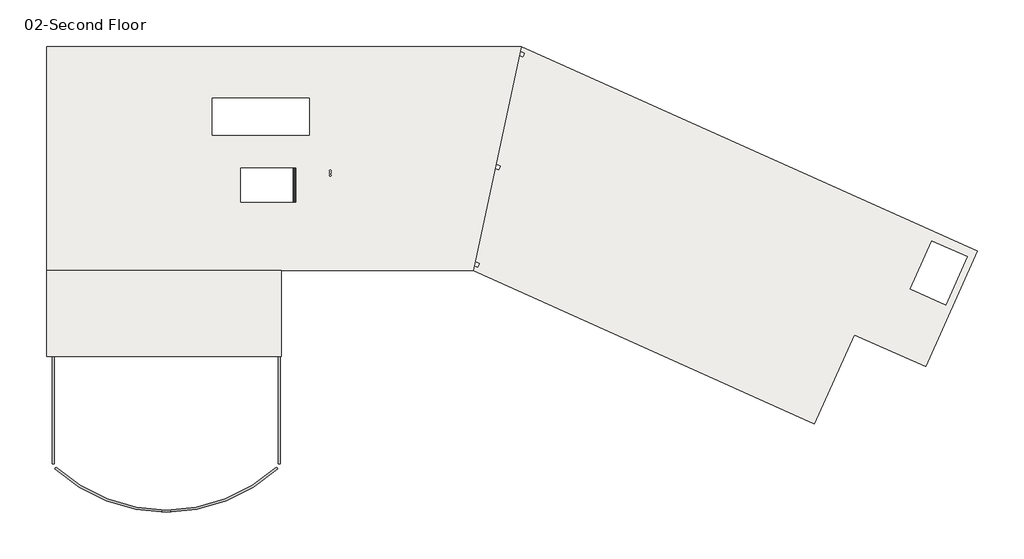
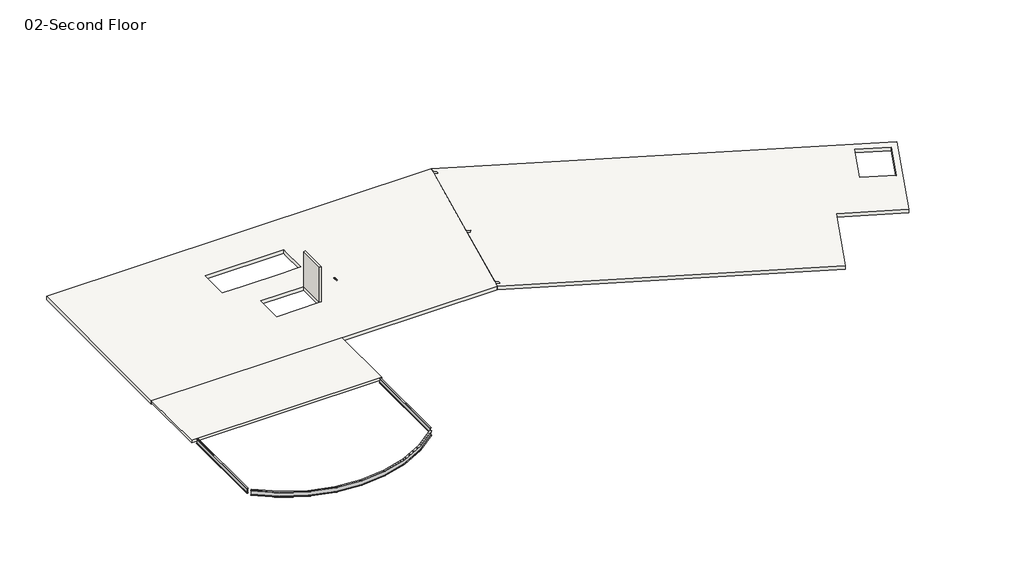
# One storey: 3 beams, 3 slabs, 1 wall.
"""IFC4 building model written with IfcOpenShell, lengths in millimetres."""

import ifcopenshell
import ifcopenshell.guid

model = None  # the IFC model being written
_history = None  # IfcOwnerHistory: only IFC2X3 demands one
_inside = {}  # id of a spatial element -> (the spatial element, [elements in it])
_under = {}  # id of a project, library or spatial element -> (it, [spatial elements below it])
_declared = {}  # id of a project -> (the project, [libraries it declares])
_typed = {}  # id of a type object -> (the type object, [elements of that type])
_made_of = {}  # id of a material, layer set ... -> (it, [elements and type objects made of it])


def new_model(schema):
    """Start an empty IFC model of exactly this schema.

    Asked for "IFC4X3", IfcOpenShell would pick the latest addendum, in which some entities
    have other attributes; the version numbers below select the first issue.
    IFC2X3 requires an IfcOwnerHistory on every rooted entity: one is made here for all.
    """
    global model, _history
    if schema == "IFC4X3":
        model = ifcopenshell.file(schema_version=(4, 3, 0, 0))
    else:
        model = ifcopenshell.file(schema=schema)
    _inside.clear()
    _under.clear()
    _declared.clear()
    _typed.clear()
    _made_of.clear()
    _history = None
    if model.schema == "IFC2X3":
        org = make("IfcOrganization", Name="unknown")
        user = make(
            "IfcPersonAndOrganization",
            ThePerson=make("IfcPerson", FamilyName="unknown"),
            TheOrganization=org,
        )
        app = make(
            "IfcApplication",
            ApplicationDeveloper=org,
            Version="unknown",
            ApplicationFullName="unknown",
            ApplicationIdentifier="unknown",
        )
        _history = make(
            "IfcOwnerHistory",
            OwningUser=user,
            OwningApplication=app,
            ChangeAction="ADDED",
            CreationDate=0,
        )
    return model


def make(cls, **values):
    """One entity of the class cls with the attributes given. An attribute that is None is left unset."""
    return model.create_entity(
        cls, **{name: value for name, value in values.items() if value is not None}
    )


def rooted(cls, **values):
    """An entity with a GlobalId (a new one), such as an element, a storey or a relation."""
    return make(cls, GlobalId=ifcopenshell.guid.new(), OwnerHistory=_history, **values)


def si_unit(unit_type, name, prefix=None):
    """IfcSIUnit, for example si_unit("LENGTHUNIT", "METRE", prefix="MILLI")."""
    return make("IfcSIUnit", UnitType=unit_type, Prefix=prefix, Name=name)


def assignment(units):
    """IfcUnitAssignment: the units of a project."""
    return None if units is None else make("IfcUnitAssignment", Units=units)


def point(xyz):
    """IfcCartesianPoint."""
    return None if xyz is None else make("IfcCartesianPoint", Coordinates=xyz)


def direction(xyz):
    """IfcDirection."""
    return None if xyz is None else make("IfcDirection", DirectionRatios=xyz)


def frame(location, z_axis=None, x_axis=None):
    """IfcAxis2Placement3D, a coordinate frame: its origin and axes. An axis left out is left unset."""
    return make(
        "IfcAxis2Placement3D",
        Location=point(location),
        Axis=direction(z_axis),
        RefDirection=direction(x_axis),
    )


def frame_2d(location, x_axis=None):
    """IfcAxis2Placement2D, a coordinate frame in the plane: its origin and x axis."""
    return make(
        "IfcAxis2Placement2D", Location=point(location), RefDirection=direction(x_axis)
    )


def origin():
    """The frame at (0, 0, 0) with its axes left unset."""
    return frame((0.0, 0.0, 0.0))


def place(relative_to, where):
    """IfcLocalPlacement: puts the frame where relative to a parent placement (None: the world)."""
    return make(
        "IfcLocalPlacement", PlacementRelTo=relative_to, RelativePlacement=where
    )


def context(
    kind, dimensions, precision=None, world=None, true_north=None, identifier=None
):
    """IfcGeometricRepresentationContext, for example the 3D "Model" context."""
    return make(
        "IfcGeometricRepresentationContext",
        ContextIdentifier=identifier,
        ContextType=kind,
        CoordinateSpaceDimension=dimensions,
        Precision=precision,
        WorldCoordinateSystem=world,
        TrueNorth=true_north,
    )


def project(units=None, contexts=None):
    """IfcProject with its units and contexts."""
    return rooted(
        "IfcProject",
        Name="project",
        RepresentationContexts=contexts,
        UnitsInContext=assignment(units),
    )


def spatial(cls, under=None, at=None, **own):
    """A site, building, storey or space (cls), placed at a placement, below another one or the project."""
    s = rooted(cls, ObjectPlacement=at, **own)
    if under is not None:
        _under.setdefault(under.id(), (under, []))[1].append(s)
    return s


def polyline(points):
    """IfcPolyline through the points."""
    return make("IfcPolyline", Points=[point(p) for p in points])


def circle_curve(where, radius):
    """IfcCircle in the frame where."""
    return make("IfcCircle", Position=where, Radius=radius)


def ellipse_curve(where, semi_axis1, semi_axis2):
    """IfcEllipse in the frame where."""
    return make(
        "IfcEllipse", Position=where, SemiAxis1=semi_axis1, SemiAxis2=semi_axis2
    )


def trimmed(basis, trim1, trim2, sense, master):
    """IfcTrimmedCurve: the piece of a basis curve between two trims."""
    return make(
        "IfcTrimmedCurve",
        BasisCurve=basis,
        Trim1=trim1,
        Trim2=trim2,
        SenseAgreement=sense,
        MasterRepresentation=master,
    )


def segment(curve, same_sense, transition):
    """IfcCompositeCurveSegment."""
    return make(
        "IfcCompositeCurveSegment",
        Transition=transition,
        SameSense=same_sense,
        ParentCurve=curve,
    )


def composite_curve(segments, self_intersect=None):
    """IfcCompositeCurve: segments joined end to end."""
    return make("IfcCompositeCurve", Segments=segments, SelfIntersect=self_intersect)


def outline(outer, holes=None, kind="AREA"):
    """IfcArbitraryClosedProfileDef: a profile drawn as a closed curve; with holes, ...WithVoids."""
    if holes is None:
        return make("IfcArbitraryClosedProfileDef", ProfileType=kind, OuterCurve=outer)
    return make(
        "IfcArbitraryProfileDefWithVoids",
        ProfileType=kind,
        OuterCurve=outer,
        InnerCurves=holes,
    )


def extrude(swept, where, along, depth):
    """IfcExtrudedAreaSolid: the profile swept, set in the frame where, extruded along a direction by depth."""
    return make(
        "IfcExtrudedAreaSolid",
        SweptArea=swept,
        Position=where,
        ExtrudedDirection=direction(along),
        Depth=depth,
    )


def faces_of(points, faces, orient=None, outer=None):
    """IfcFace entities. A face is a list of loops; a loop is a list of indices into points, from 0.

    orient and outer hold one flag for each loop. By default every Orientation is true, the
    first loop of a face is its IfcFaceOuterBound and the others are IfcFaceBound.
    """
    made = []
    for i, loops in enumerate(faces):
        bounds = []
        for j, loop in enumerate(loops):
            is_outer = j == 0 if outer is None else outer[i][j]
            bounds.append(
                make(
                    "IfcFaceOuterBound" if is_outer else "IfcFaceBound",
                    Bound=make("IfcPolyLoop", Polygon=[points[k] for k in loop]),
                    Orientation=True if orient is None else orient[i][j],
                )
            )
        made.append(make("IfcFace", Bounds=bounds))
    return made


def faceted_brep(points, faces, orient=None, outer=None, voids=None):
    """IfcFacetedBrep: a solid bounded by flat faces; with voids (closed shells), ...WithVoids."""
    shared = [point(p) for p in points]
    hull = make("IfcClosedShell", CfsFaces=faces_of(shared, faces, orient, outer))
    if voids is None:
        return make("IfcFacetedBrep", Outer=hull)
    return make(
        "IfcFacetedBrepWithVoids",
        Outer=hull,
        Voids=[
            make(cls, CfsFaces=faces_of(shared, fs, o, b)) for cls, fs, o, b in voids
        ],
    )


def shape(context_of_items, identifier, shape_type, items):
    """IfcShapeRepresentation: the items that make up one representation, for example the "Body"."""
    return make(
        "IfcShapeRepresentation",
        ContextOfItems=context_of_items,
        RepresentationIdentifier=identifier,
        RepresentationType=shape_type,
        Items=items,
    )


def source(mapping_origin, context_of_items, identifier, shape_type, items):
    """IfcRepresentationMap: a shape defined once, which mapped items show again and again."""
    return make(
        "IfcRepresentationMap",
        MappingOrigin=mapping_origin,
        MappedRepresentation=shape(context_of_items, identifier, shape_type, items),
    )


def transform(
    local_origin,
    x_axis=None,
    y_axis=None,
    z_axis=None,
    scale=None,
    scale2=None,
    scale3=None,
    uniform=True,
):
    """IfcCartesianTransformationOperator3D, or its non-uniform kind. x_axis, y_axis, z_axis: its Axis1, 2, 3."""
    if uniform:
        return make(
            "IfcCartesianTransformationOperator3D",
            Axis1=direction(x_axis),
            Axis2=direction(y_axis),
            LocalOrigin=point(local_origin),
            Scale=scale,
            Axis3=direction(z_axis),
        )
    return make(
        "IfcCartesianTransformationOperator3DnonUniform",
        Axis1=direction(x_axis),
        Axis2=direction(y_axis),
        LocalOrigin=point(local_origin),
        Scale=scale,
        Axis3=direction(z_axis),
        Scale2=scale2,
        Scale3=scale3,
    )


def mapped(mapping_source, mapping_target):
    """IfcMappedItem: shows the shape of a source again, moved by a transform."""
    return make(
        "IfcMappedItem", MappingSource=mapping_source, MappingTarget=mapping_target
    )


def made_of(thing, what):
    """Note that an element or type object is made of a material, layer set ...; save() writes the relation."""
    if what is not None:
        _made_of.setdefault(what.id(), (what, []))[1].append(thing)
    return thing


def element(
    cls,
    number,
    at=None,
    inside=None,
    cuts=None,
    type_object=None,
    material=None,
    context=None,
    identifier="Body",
    shape_type=None,
    held_by="IfcProductDefinitionShape",
    body=None,
    shapes=None,
    **own,
):
    """One element of the class cls, such as IfcWall. Its Tag is "e" and its number.

    at: its placement. inside: the storey or other place that contains it. cuts: it is an
    opening in that element (IfcRelVoidsElement). A single representation is given by context,
    identifier, shape_type and body (its items); several are given by shapes. held_by: the class
    of the entity that holds the representations. save() writes the other relations.
    """
    e = rooted(cls, Tag="e%d" % number, ObjectPlacement=at, **own)
    if body is not None:
        shapes = [shape(context, identifier, shape_type, body)]
    if shapes is not None:
        e.Representation = make(held_by, Representations=shapes)
    if inside is not None:
        _inside.setdefault(inside.id(), (inside, []))[1].append(e)
    if cuts is not None:
        rooted(
            "IfcRelVoidsElement", RelatingBuildingElement=cuts, RelatedOpeningElement=e
        )
    if type_object is not None:
        _typed.setdefault(type_object.id(), (type_object, []))[1].append(e)
    return made_of(e, material)


def aggregate(whole, parts):
    """IfcRelAggregates: a whole, such as a stair, and the parts it consists of."""
    return rooted("IfcRelAggregates", RelatingObject=whole, RelatedObjects=parts)


def save(model, path):
    """Write the relations noted so far, then the file.

    IfcRelAggregates (storeys below a building ...), IfcRelContainedInSpatialStructure (elements
    in a storey), IfcRelDefinesByType, IfcRelAssociatesMaterial and IfcRelDeclares: one each for
    every whole, place, type object, material and project.
    """
    for whole, parts in _under.values():
        aggregate(whole, parts)
    for where, things in _inside.values():
        rooted(
            "IfcRelContainedInSpatialStructure",
            RelatedElements=things,
            RelatingStructure=where,
        )
    for kind, things in _typed.values():
        rooted("IfcRelDefinesByType", RelatedObjects=things, RelatingType=kind)
    for what, things in _made_of.values():
        rooted("IfcRelAssociatesMaterial", RelatedObjects=things, RelatingMaterial=what)
    for by, libraries in _declared.values():
        rooted("IfcRelDeclares", RelatingContext=by, RelatedDefinitions=libraries)
    model.write(path)


def plane_surface(at):
    """IfcPlane: the flat surface through the origin of the frame at, square to its z axis."""
    return make("IfcPlane", Position=at)


def cylinder_surface(at, radius):
    """IfcCylindricalSurface: all points at the distance radius from the z axis of the frame at."""
    return make("IfcCylindricalSurface", Position=at, Radius=radius)


def revolved_surface(curve, axis_point, axis_direction):
    """IfcSurfaceOfRevolution: the curve turned about the line through axis_point along axis_direction."""
    return make(
        "IfcSurfaceOfRevolution",
        SweptCurve=make("IfcArbitraryOpenProfileDef", ProfileType="CURVE", Curve=curve),
        AxisPosition=make("IfcAxis1Placement", Location=point(axis_point), Axis=direction(axis_direction)),
    )


def advanced_brep(points, edges, surfaces, faces):
    """IfcAdvancedBrep: a solid bounded by faces that lie on surfaces and meet in shared edges.

    An edge is (start, end): straight between two places in points (the first is 0);
    or (start, end, curve); or (start, end, curve, False) where it runs against its curve.
    A face is (place in surfaces, loops), or (place, loops, False) where it looks against
    its surface's normal. A loop lists edges by number (the first is 1), with a minus sign
    where the edge is run from its end to its start. The first loop is the outer one.
    """
    corners = [point(p) for p in points]
    vertices = [make("IfcVertexPoint", VertexGeometry=c) for c in corners]
    made = []
    for start, end, *more in edges:
        made.append(
            make(
                "IfcEdgeCurve",
                EdgeStart=vertices[start],
                EdgeEnd=vertices[end],
                EdgeGeometry=more[0] if more else make("IfcPolyline", Points=[corners[start], corners[end]]),
                SameSense=more[1] if len(more) > 1 else True,
            )
        )
    hull = []
    for where, loops, *sense in faces:
        bounds = []
        for j, loop in enumerate(loops):
            ring = [make("IfcOrientedEdge", EdgeElement=made[abs(k) - 1], Orientation=k > 0) for k in loop]
            bounds.append(
                make(
                    "IfcFaceOuterBound" if j == 0 else "IfcFaceBound",
                    Bound=make("IfcEdgeLoop", EdgeList=ring),
                    Orientation=True,
                )
            )
        hull.append(make("IfcAdvancedFace", Bounds=bounds, FaceSurface=surfaces[where], SameSense=sense[0] if sense else True))
    return make("IfcAdvancedBrep", Outer=make("IfcClosedShell", CfsFaces=hull))


def w_shapes_w16x26_e367a1e3(model_context):
    return source(origin(), model_context, "Body", "SweptSolid", [
        extrude(outline(composite_curve([segment(polyline([(69.85, -190.627), (69.85, -199.39), (-69.85, -199.39), (-69.85, -190.627), (-13.3858, -190.627)]), True, "CONTINUOUS"), segment(trimmed(circle_curve(frame_2d((-13.3858, -180.4162)), 10.2108), [point((-13.3858, -190.627))], [point((-3.175, -180.4162))], True, "CARTESIAN"), True, "CONTINUOUS"), segment(polyline([(-3.175, -180.4162), (-3.175, 180.4162)]), True, "CONTINUOUS"), segment(trimmed(circle_curve(frame_2d((-13.3858, 180.4162)), 10.2108), [point((-3.175, 180.4162))], [point((-13.3858, 190.627))], True, "CARTESIAN"), True, "CONTINUOUS"), segment(polyline([(-13.3858, 190.627), (-69.85, 190.627), (-69.85, 199.39), (69.85, 199.39), (69.85, 190.627), (13.3858, 190.627)]), True, "CONTINUOUS"), segment(trimmed(circle_curve(frame_2d((13.3858, 180.4162)), 10.2108), [point((13.3858, 190.627))], [point((3.175, 180.4162))], True, "CARTESIAN"), True, "CONTINUOUS"), segment(polyline([(3.175, 180.4162), (3.175, -180.4162)]), True, "CONTINUOUS"), segment(trimmed(circle_curve(frame_2d((13.3858, -180.4162)), 10.2108), [point((3.175, -180.4162))], [point((13.3858, -190.627))], True, "CARTESIAN"), True, "CONTINUOUS"), segment(polyline([(13.3858, -190.627), (69.85, -190.627)]), True, "CONTINUOUS")], self_intersect=False)), frame((-3584.829, 0.0, 0.0), z_axis=(1.0, 0.0, 0.0), x_axis=(0.0, 1.0, 0.0)), (0.0, 0.0, 1.0), 7166.229),
    ])


def w_shapes_w16x26_bd6dae71(model_context):
    return source(origin(), model_context, "Body", "SweptSolid", [
        extrude(outline(composite_curve([segment(polyline([(69.85, -190.627), (69.85, -199.39), (-69.85, -199.39), (-69.85, -190.627), (-13.3858, -190.627)]), True, "CONTINUOUS"), segment(trimmed(circle_curve(frame_2d((-13.3858, -180.4162)), 10.2108), [point((-13.3858, -190.627))], [point((-3.175, -180.4162))], True, "CARTESIAN"), True, "CONTINUOUS"), segment(polyline([(-3.175, -180.4162), (-3.175, 180.4162)]), True, "CONTINUOUS"), segment(trimmed(circle_curve(frame_2d((-13.3858, 180.4162)), 10.2108), [point((-3.175, 180.4162))], [point((-13.3858, 190.627))], True, "CARTESIAN"), True, "CONTINUOUS"), segment(polyline([(-13.3858, 190.627), (-69.85, 190.627), (-69.85, 199.39), (69.85, 199.39), (69.85, 190.627), (13.3858, 190.627)]), True, "CONTINUOUS"), segment(trimmed(circle_curve(frame_2d((13.3858, 180.4162)), 10.2108), [point((13.3858, 190.627))], [point((3.175, 180.4162))], True, "CARTESIAN"), True, "CONTINUOUS"), segment(polyline([(3.175, 180.4162), (3.175, -180.4162)]), True, "CONTINUOUS"), segment(trimmed(circle_curve(frame_2d((13.3858, -180.4162)), 10.2108), [point((3.175, -180.4162))], [point((13.3858, -190.627))], True, "CARTESIAN"), True, "CONTINUOUS"), segment(polyline([(13.3858, -190.627), (69.85, -190.627)]), True, "CONTINUOUS")], self_intersect=False)), frame((-3581.4, 0.0, 0.0), z_axis=(1.0, 0.0, 0.0), x_axis=(0.0, 1.0, 0.0)), (0.0, 0.0, 1.0), 7166.229),
    ])


def w_shapes_w16x26_8057c508(model_context):
    return source(origin(), model_context, "Body", "AdvancedBrep", [
        advanced_brep(
        [(10900.3353789, -10168.7475051, -190.627), (10843.9817352, -10172.2791801, -190.627), (10833.7909279, -10172.9178365, -180.4162), (10833.7909279, -10172.9178365, 180.4162), (10843.9817352, -10172.2791801, 190.627), (10900.3353789, -10168.7475051, 190.627), (10900.3353789, -10168.7475051, 199.39), (10760.9089101, -10177.4853424, 199.39), (10760.9089101, -10177.4853424, 190.627), (10817.2625537, -10173.9536674, 190.627), (10827.4533611, -10173.315011, 180.4162), (10827.4533611, -10173.315011, -180.4162), (10817.2625537, -10173.9536674, -190.627), (10760.9089101, -10177.4853424, -190.627), (10760.9089101, -10177.4853424, -199.39), (10900.3353789, -10168.7475051, -199.39), (193.4708242, 68.1362637, -190.627), (193.4708242, 68.1362637, -199.39), (190.996134, -71.5418159, -199.39), (190.996134, -71.5418159, -190.627), (191.9963588, -15.0864757, -190.627), (192.1772362, -4.8772779, -180.4162), (192.1772362, -4.8772779, 180.4162), (191.9963588, -15.0864757, 190.627), (190.996134, -71.5418159, 190.627), (190.996134, -71.5418159, 199.39), (193.4708242, 68.1362637, 199.39), (193.4708242, 68.1362637, 190.627), (192.4705994, 11.6809235, 190.627), (192.2897221, 1.4717257, 180.4162), (192.2897221, 1.4717257, -180.4162), (192.4705994, 11.6809235, -190.627)],
        [
            (0, 1),
            (1, 2, circle_curve(frame((10843.9817352, -10172.2791801, -180.4162), z_axis=(-0.06254715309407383, 0.9980420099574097, 0.0), x_axis=(-0.9980420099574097, -0.06254715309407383, 0.0)), 10.2108)),
            (2, 3),
            (3, 4, circle_curve(frame((10843.9817352, -10172.2791801, 180.4162), z_axis=(-0.06254715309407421, 0.9980420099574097, 0.0), x_axis=(-0.9980420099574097, -0.06254715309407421, 0.0)), 10.2108)),
            (4, 5),
            (5, 6),
            (6, 7),
            (7, 8),
            (8, 9),
            (9, 10, circle_curve(frame((10817.2625537, -10173.9536674, 180.4162), z_axis=(-0.06254715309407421, 0.9980420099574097, 0.0), x_axis=(-0.9980420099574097, -0.06254715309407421, 0.0)), 10.2108)),
            (10, 11),
            (11, 12, circle_curve(frame((10817.2625537, -10173.9536674, -180.4162), z_axis=(-0.06254715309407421, 0.9980420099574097, 0.0), x_axis=(-0.9980420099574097, -0.06254715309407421, 0.0)), 10.2108)),
            (12, 13),
            (13, 14),
            (14, 15),
            (15, 0),
            (16, 17),
            (17, 18),
            (18, 19),
            (19, 20),
            (20, 21, circle_curve(frame((191.9963588, -15.0864757, -180.4162), z_axis=(0.9998430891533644, -0.017714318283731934, 0.0), x_axis=(-0.017714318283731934, -0.9998430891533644, 0.0)), 10.2108)),
            (21, 22),
            (22, 23, circle_curve(frame((191.9963588, -15.0864757, 180.4162), z_axis=(0.9998430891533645, -0.017714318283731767, 0.0), x_axis=(-0.017714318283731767, -0.9998430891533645, 0.0)), 10.2108)),
            (23, 24),
            (24, 25),
            (25, 26),
            (26, 27),
            (27, 28),
            (28, 29, circle_curve(frame((192.4705994, 11.6809235, 180.4162), z_axis=(0.9998430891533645, -0.017714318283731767, 0.0), x_axis=(-0.017714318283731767, -0.9998430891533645, 0.0)), 10.2108)),
            (29, 30),
            (30, 31, circle_curve(frame((192.4705994, 11.6809235, -180.4162), z_axis=(0.9998430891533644, -0.017714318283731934, 0.0), x_axis=(-0.017714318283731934, -0.9998430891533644, 0.0)), 10.2108)),
            (31, 16),
            (0, 16, circle_curve(frame((0.0, -10851.8699979, -190.627), z_axis=(0.0, 0.0, 1.0), x_axis=(-0.7227923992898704, 0.691065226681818, 0.0)), 10921.7199979)),
            (31, 1, circle_curve(frame((0.0, -10851.8699979, -190.627), z_axis=(0.0, 0.0, -1.0), x_axis=(-0.7227923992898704, 0.691065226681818, 0.0)), 10865.2557979)),
            (30, 2, circle_curve(frame((0.0, -10851.8699979, -180.4162), z_axis=(0.0, 0.0, -1.0), x_axis=(-0.7227923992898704, 0.691065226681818, 0.0)), 10855.0449979)),
            (29, 3, circle_curve(frame((0.0, -10851.8699979, 180.4162), z_axis=(0.0, 0.0, -1.0), x_axis=(-0.7227923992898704, 0.691065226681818, 0.0)), 10855.0449979)),
            (28, 4, circle_curve(frame((0.0, -10851.8699979, 190.627), z_axis=(0.0, 0.0, -1.0), x_axis=(-0.7227923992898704, 0.691065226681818, 0.0)), 10865.2557979)),
            (27, 5, circle_curve(frame((0.0, -10851.8699979, 190.627), z_axis=(0.0, 0.0, -1.0), x_axis=(-0.7227923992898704, 0.691065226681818, 0.0)), 10921.7199979)),
            (26, 6, circle_curve(frame((0.0, -10851.8699979, 199.39), z_axis=(0.0, 0.0, -1.0), x_axis=(-0.7227923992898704, 0.691065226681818, 0.0)), 10921.7199979)),
            (25, 7, circle_curve(frame((0.0, -10851.8699979, 199.39), z_axis=(0.0, 0.0, -1.0), x_axis=(-0.7227923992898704, 0.691065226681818, 0.0)), 10782.0199979)),
            (24, 8, circle_curve(frame((0.0, -10851.8699979, 190.627), z_axis=(0.0, 0.0, -1.0), x_axis=(-0.7227923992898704, 0.691065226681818, 0.0)), 10782.0199979)),
            (23, 9, circle_curve(frame((0.0, -10851.8699979, 190.627), z_axis=(0.0, 0.0, -1.0), x_axis=(-0.7227923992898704, 0.691065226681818, 0.0)), 10838.4841979)),
            (22, 10, circle_curve(frame((0.0, -10851.8699979, 180.4162), z_axis=(0.0, 0.0, -1.0), x_axis=(-0.7227923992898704, 0.691065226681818, 0.0)), 10848.6949979)),
            (21, 11, circle_curve(frame((0.0, -10851.8699979, -180.4162), z_axis=(0.0, 0.0, -1.0), x_axis=(-0.7227923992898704, 0.691065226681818, 0.0)), 10848.6949979)),
            (20, 12, circle_curve(frame((0.0, -10851.8699979, -190.627), z_axis=(0.0, 0.0, -1.0), x_axis=(-0.7227923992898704, 0.691065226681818, 0.0)), 10838.4841979)),
            (19, 13, circle_curve(frame((0.0, -10851.8699979, -190.627), z_axis=(0.0, 0.0, -1.0), x_axis=(-0.7227923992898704, 0.691065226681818, 0.0)), 10782.0199979)),
            (18, 14, circle_curve(frame((0.0, -10851.8699979, -199.39), z_axis=(0.0, 0.0, -1.0), x_axis=(-0.7227923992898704, 0.691065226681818, 0.0)), 10782.0199979)),
            (17, 15, circle_curve(frame((0.0, -10851.8699979, -199.39), z_axis=(0.0, 0.0, -1.0), x_axis=(-0.7227923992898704, 0.691065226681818, 0.0)), 10921.7199979)),
        ],
        [
            plane_surface(frame((10830.6221445, -10173.1164238, 0.0), z_axis=(0.0625471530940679, -0.9980420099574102, 0.0), x_axis=(0.0, 0.0, 1.0))),
            plane_surface(frame((192.2334791, -1.7027761, 0.0), z_axis=(-0.9998430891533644, 0.017714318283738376, 0.0), x_axis=(0.0, 0.0, 1.0))),
            plane_surface(frame((0.0, -10851.8699979, -190.627), z_axis=(0.0, 0.0, 1.0), x_axis=(-0.7227923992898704, 0.691065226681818, 0.0))),
            revolved_surface(trimmed(ellipse_curve(frame((-7853.324307, -3343.269537, -180.4162), z_axis=(0.6910652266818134, 0.7227923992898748, 0.0), x_axis=(0.7227923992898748, -0.6910652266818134, 0.0)), 10.2108, 10.2108), [point((-7845.9440184, -3350.3258658, -180.4162))], [point((-7853.324307, -3343.269537, -190.627))], True, "CARTESIAN"), (0.0, -10851.8699979, 0.0), (0.0, 0.0, -1.0)),
            cylinder_surface(frame((0.0, -10851.8699979, 0.0), z_axis=(0.0, 0.0, -1.0), x_axis=(-0.7227923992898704, 0.691065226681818, 0.0)), 10855.0449979),
            revolved_surface(trimmed(ellipse_curve(frame((-7853.324307, -3343.269537, 180.4162), z_axis=(0.6910652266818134, 0.7227923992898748, 0.0), x_axis=(0.7227923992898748, -0.6910652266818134, 0.0)), 10.2108, 10.2108), [point((-7853.324307, -3343.269537, 190.627))], [point((-7845.9440184, -3350.3258658, 180.4162))], True, "CARTESIAN"), (0.0, -10851.8699979, 0.0), (0.0, 0.0, -1.0)),
            plane_surface(frame((0.0, -10851.8699979, 190.627), z_axis=(0.0, 0.0, -1.0), x_axis=(-0.7227923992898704, 0.691065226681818, 0.0))),
            cylinder_surface(frame((0.0, -10851.8699979, 0.0), z_axis=(0.0, 0.0, -1.0), x_axis=(-0.7227923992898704, 0.691065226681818, 0.0)), 10921.7199979),
            plane_surface(frame((0.0, -10851.8699979, 199.39), z_axis=(0.0, 0.0, 1.0), x_axis=(-0.7227923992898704, 0.691065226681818, 0.0))),
            revolved_surface(polyline([(-7793.162103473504, -3400.7909039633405, 190.627), (-7793.162103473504, -3400.7909039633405, 199.39)]), (0.0, -10851.8699979, 0.0), (0.0, 0.0, -1.0)),
            revolved_surface(trimmed(ellipse_curve(frame((-7833.973998, -3361.7704588, 180.4162), z_axis=(0.6910652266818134, 0.7227923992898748, 0.0), x_axis=(0.7227923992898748, -0.6910652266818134, 0.0)), 10.2108, 10.2108), [point((-7841.3542867, -3354.71413, 180.4162))], [point((-7833.973998, -3361.7704588, 190.627))], True, "CARTESIAN"), (0.0, -10851.8699979, 0.0), (0.0, 0.0, -1.0)),
            revolved_surface(polyline([(-7841.354286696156, -3354.7141299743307, -180.4162), (-7841.354286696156, -3354.7141299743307, 180.4162)]), (0.0, -10851.8699979, 0.0), (0.0, 0.0, -1.0)),
            revolved_surface(trimmed(ellipse_curve(frame((-7833.973998, -3361.7704588, -180.4162), z_axis=(0.6910652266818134, 0.7227923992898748, 0.0), x_axis=(0.7227923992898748, -0.6910652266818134, 0.0)), 10.2108, 10.2108), [point((-7833.973998, -3361.7704588, -190.627))], [point((-7841.3542867, -3354.71413, -180.4162))], True, "CARTESIAN"), (0.0, -10851.8699979, 0.0), (0.0, 0.0, -1.0)),
            revolved_surface(polyline([(-7793.162103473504, -3400.7909039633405, -199.39), (-7793.162103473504, -3400.7909039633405, -190.627)]), (0.0, -10851.8699979, 0.0), (0.0, 0.0, -1.0)),
            plane_surface(frame((0.0, -10851.8699979, -199.39), z_axis=(0.0, 0.0, -1.0), x_axis=(-0.7227923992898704, 0.691065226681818, 0.0))),
        ],
        [
            (0, [[1, 2, 3, 4, 5, 6, 7, 8, 9, 10, 11, 12, 13, 14, 15, 16]]),
            (1, [[17, 18, 19, 20, 21, 22, 23, 24, 25, 26, 27, 28, 29, 30, 31, 32]]),
            (2, [[-1, 33, -32, 34]]),
            (3, [[-2, -34, -31, 35]]),
            (4, [[-3, -35, -30, 36]]),
            (5, [[-4, -36, -29, 37]]),
            (6, [[-5, -37, -28, 38]]),
            (7, [[-6, -38, -27, 39]]),
            (8, [[-7, -39, -26, 40]]),
            (9, [[-8, -40, -25, 41]]),
            (6, [[-9, -41, -24, 42]]),
            (10, [[-10, -42, -23, 43]]),
            (11, [[-11, -43, -22, 44]]),
            (12, [[-12, -44, -21, 45]]),
            (2, [[-13, -45, -20, 46]]),
            (13, [[-14, -46, -19, 47]]),
            (14, [[-15, -47, -18, 48]]),
            (7, [[-16, -48, -17, -33]]),
        ],
    ),
    ])


model = new_model("IFC4")

# Units and contexts
model_context = context("Model", 3, world=origin())
ifc_project = project(units=[si_unit("LENGTHUNIT", "METRE", prefix="MILLI")], contexts=[model_context])

# Site, building, storey
site = spatial("IfcSite", under=ifc_project)
building = spatial("IfcBuilding", under=site)
storey = spatial("IfcBuildingStorey", under=building, Name="02-Second Floor", Elevation=6705.6)

# Beams
placement = place(None, origin())
w_shapes_w16x26_shape = w_shapes_w16x26_e367a1e3(model_context)
element("IfcBeam", 1, ObjectType="W Shapes : W16X26", at=placement, inside=storey, context=model_context, shape_type="MappedRepresentation", body=[
    mapped(w_shapes_w16x26_shape, transform((14998.7, -23723.6, 6506.21), x_axis=(0.0, -1.0, 0.0), y_axis=(1.0, 0.0, 0.0), z_axis=(0.0, 0.0, 1.0))),
])
w_shapes_w16x26_2_shape = w_shapes_w16x26_bd6dae71(model_context)
element("IfcBeam", 2, ObjectType="W Shapes : W16X26", at=placement, inside=storey, context=model_context, shape_type="MappedRepresentation", body=[
    mapped(w_shapes_w16x26_2_shape, transform((0.0, -23723.6, 6506.21), x_axis=(0.0, 1.0, 0.0), y_axis=(-1.0, 0.0, 0.0), z_axis=(0.0, 0.0, 1.0))),
])
w_shapes_w16x26_3_shape = w_shapes_w16x26_8057c508(model_context)
element("IfcBeam", 3, ObjectType="W Shapes : W16X26", at=placement, inside=storey, context=model_context, shape_type="MappedRepresentation", body=[
    mapped(w_shapes_w16x26_3_shape, transform((14998.7, -27444.7, 6506.21), x_axis=(-0.7227923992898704, -0.691065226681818, 0.0), y_axis=(0.691065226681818, -0.7227923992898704, 0.0), z_axis=(0.0, 0.0, 1.0))),
])

# Slabs
element("IfcSlab", 4, ObjectType="RC Composite Slab 8\"", at=placement, inside=storey, context=model_context, shape_type="SweptSolid", body=[
    extrude(outline(polyline([(15151.1, -20154.9), (-457.2, -20154.9), (-457.2, -14452.6), (15151.1, -14452.6), (15151.1, -20154.9)])), frame((0.0, 0.0, 6502.4), z_axis=(0.0, 0.0, 1.0), x_axis=(1.0, 0.0, 0.0)), (0.0, 0.0, 1.0), 203.2),
])
element("IfcSlab", 5, ObjectType="RC Slab 12\"", at=placement, inside=storey, context=model_context, shape_type="AdvancedBrep", body=[
    advanced_brep(
    [(-457.2, 457.2, 6400.8), (31098.7387393, 457.2, 6400.8), (27903.7815965, -14452.6, 6400.8), (-457.2, -14452.6, 6400.8), (17005.3, -2984.5, 6400.8), (10553.7, -2984.5, 6400.8), (10553.7, -5422.9, 6400.8), (10858.5, -5422.9, 6400.8), (17005.3, -5422.9, 6400.8), (17005.3, -5168.9, 6400.8), (17005.3, -3289.3, 6400.8), (15951.2, -7633.3081651, 6400.8), (12446.0, -7633.3081651, 6400.8), (12446.0, -9893.3, 6400.8), (15951.2, -9893.3, 6400.8), (18347.8020543, -8109.4381113, 6400.8), (18449.4020543, -8109.4381113, 6400.8), (18347.8020543, -7957.0381113, 6400.8), (18449.4020543, -7957.0381113, 6400.8), (18347.8020543, -7804.6381113, 6400.8), (18449.4020543, -7804.6381113, 6400.8), (31098.7387393, 457.2, 6705.6), (-457.2, 457.2, 6705.6), (-457.2, -14452.6, 6705.6), (15151.1, -14452.6, 6705.6), (27903.7815965, -14452.6, 6705.6), (10553.7, -2984.5, 6705.6), (17005.3, -2984.5, 6705.6), (17005.3, -3289.3, 6705.6), (17005.3, -5168.9, 6705.6), (17005.3, -5422.9, 6705.6), (16522.7, -5422.9, 6705.6), (15608.3, -5422.9, 6705.6), (14389.1, -5422.9, 6705.6), (13474.7, -5422.9, 6705.6), (12242.8, -5422.9, 6705.6), (11328.4, -5422.9, 6705.6), (10553.7, -5422.9, 6705.6), (12446.0, -7633.3081651, 6705.6), (15951.2, -7633.3081651, 6705.6), (15951.2, -9893.3, 6705.6), (12446.0, -9893.3, 6705.6), (18449.4020543, -8109.4381113, 6705.6), (18347.8020543, -8109.4381113, 6705.6), (18449.4020543, -7957.0381113, 6705.6), (18347.8020543, -7957.0381113, 6705.6), (18449.4020543, -7804.6381113, 6705.6), (18347.8020543, -7804.6381113, 6705.6), (-457.2, -14452.6, 6502.4)],
    [
        (0, 1),
        (1, 2),
        (2, 3),
        (3, 0),
        (4, 5),
        (5, 6),
        (6, 7),
        (7, 8),
        (8, 9),
        (9, 10),
        (10, 4),
        (11, 12),
        (12, 13),
        (13, 14),
        (14, 11),
        (15, 16, circle_curve(frame((18398.6020543, -8109.4381113, 6400.8), z_axis=(0.0, 0.0, 1.0), x_axis=(1.0, 0.0, 0.0)), 50.8)),
        (16, 15, circle_curve(frame((18398.6020543, -8109.4381113, 6400.8), z_axis=(0.0, 0.0, 1.0), x_axis=(1.0, 0.0, 0.0)), 50.8)),
        (17, 18, circle_curve(frame((18398.6020543, -7957.0381113, 6400.8), z_axis=(0.0, 0.0, 1.0), x_axis=(1.0, 0.0, 0.0)), 50.8)),
        (18, 17, circle_curve(frame((18398.6020543, -7957.0381113, 6400.8), z_axis=(0.0, 0.0, 1.0), x_axis=(1.0, 0.0, 0.0)), 50.8)),
        (19, 20, circle_curve(frame((18398.6020543, -7804.6381113, 6400.8), z_axis=(0.0, 0.0, 1.0), x_axis=(1.0, 0.0, 0.0)), 50.8)),
        (20, 19, circle_curve(frame((18398.6020543, -7804.6381113, 6400.8), z_axis=(0.0, 0.0, 1.0), x_axis=(1.0, 0.0, 0.0)), 50.8)),
        (21, 22),
        (22, 23),
        (23, 24),
        (24, 25),
        (25, 21),
        (26, 27),
        (27, 28),
        (28, 29),
        (29, 30),
        (30, 31),
        (31, 32),
        (32, 33),
        (33, 34),
        (34, 35),
        (35, 36),
        (36, 37),
        (37, 26),
        (38, 39),
        (39, 40),
        (40, 41),
        (41, 38),
        (42, 43, circle_curve(frame((18398.6020543, -8109.4381113, 6705.6), z_axis=(0.0, 0.0, -1.0), x_axis=(1.0, 0.0, 0.0)), 50.8)),
        (43, 42, circle_curve(frame((18398.6020543, -8109.4381113, 6705.6), z_axis=(0.0, 0.0, -1.0), x_axis=(1.0, 0.0, 0.0)), 50.8)),
        (44, 45, circle_curve(frame((18398.6020543, -7957.0381113, 6705.6), z_axis=(0.0, 0.0, -1.0), x_axis=(1.0, 0.0, 0.0)), 50.8)),
        (45, 44, circle_curve(frame((18398.6020543, -7957.0381113, 6705.6), z_axis=(0.0, 0.0, -1.0), x_axis=(1.0, 0.0, 0.0)), 50.8)),
        (46, 47, circle_curve(frame((18398.6020543, -7804.6381113, 6705.6), z_axis=(0.0, 0.0, -1.0), x_axis=(1.0, 0.0, 0.0)), 50.8)),
        (47, 46, circle_curve(frame((18398.6020543, -7804.6381113, 6705.6), z_axis=(0.0, 0.0, -1.0), x_axis=(1.0, 0.0, 0.0)), 50.8)),
        (0, 22),
        (21, 1),
        (25, 2),
        (23, 48),
        (48, 3),
        (4, 27),
        (26, 5),
        (37, 6),
        (30, 8),
        (11, 39),
        (38, 12),
        (41, 13),
        (40, 14),
        (15, 43),
        (42, 16),
        (17, 45),
        (44, 18),
        (19, 47),
        (46, 20),
    ],
    [
        plane_surface(frame((0.0, 457.2, 6400.8), z_axis=(0.0, 0.0, -1.0), x_axis=(1.0, 0.0, 0.0))),
        plane_surface(frame((0.0, 457.2, 6705.6), z_axis=(0.0, 0.0, 1.0), x_axis=(-1.0, 0.0, 0.0))),
        plane_surface(frame((-457.2, 457.2, 6400.8), z_axis=(0.0, 1.0, 0.0), x_axis=(0.0, 0.0, 1.0))),
        plane_surface(frame((31098.7387393, 457.2, 6400.8), z_axis=(0.9778024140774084, -0.2095290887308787, 0.0), x_axis=(0.0, 0.0, 1.0))),
        plane_surface(frame((27903.7815965, -14452.6, 6400.8), z_axis=(0.0, -1.0, 0.0), x_axis=(0.0, 0.0, 1.0))),
        plane_surface(frame((-457.2, -14452.6, 6400.8), z_axis=(-1.0, 0.0, 0.0), x_axis=(0.0, 0.0, 1.0))),
        plane_surface(frame((17005.3, -2984.5, 10363.2), z_axis=(0.0, -1.0, 0.0), x_axis=(0.0, 0.0, -1.0))),
        plane_surface(frame((10553.7, -2984.5, 10363.2), z_axis=(1.0, 0.0, 0.0), x_axis=(0.0, 0.0, -1.0))),
        plane_surface(frame((10553.7, -5422.9, 10363.2), z_axis=(0.0, 1.0, 0.0), x_axis=(0.0, 0.0, -1.0))),
        plane_surface(frame((17005.3, -5422.9, 10363.2), z_axis=(-1.0, 0.0, 0.0), x_axis=(0.0, 0.0, -1.0))),
        plane_surface(frame((15951.2, -7633.3081651, 10363.2), z_axis=(0.0, -1.0, 0.0), x_axis=(0.0, 0.0, -1.0))),
        plane_surface(frame((12446.0, -7633.3081651, 10363.2), z_axis=(1.0, 0.0, 0.0), x_axis=(0.0, 0.0, -1.0))),
        plane_surface(frame((12446.0, -9893.3, 10363.2), z_axis=(0.0, 1.0, 0.0), x_axis=(0.0, 0.0, -1.0))),
        plane_surface(frame((15951.2, -9893.3, 10363.2), z_axis=(-1.0, 0.0, 0.0), x_axis=(0.0, 0.0, -1.0))),
        revolved_surface(polyline([(18449.4020543, -8109.4381113, 6705.6), (18449.4020543, -8109.4381113, 6400.8)]), (18398.6020543, -8109.4381113, 6096.0), (0.0, 0.0, 1.0)),
        revolved_surface(polyline([(18449.4020543, -7957.0381113, 6705.6), (18449.4020543, -7957.0381113, 6400.8)]), (18398.6020543, -7957.0381113, 6096.0), (0.0, 0.0, 1.0)),
        revolved_surface(polyline([(18449.4020543, -7804.6381113, 6705.6), (18449.4020543, -7804.6381113, 6400.8)]), (18398.6020543, -7804.6381113, 6096.0), (0.0, 0.0, 1.0)),
    ],
    [
        (0, [[1, 2, 3, 4], [5, 6, 7, 8, 9, 10, 11], [12, 13, 14, 15], [16, 17], [18, 19], [20, 21]]),
        (1, [[22, 23, 24, 25, 26], [27, 28, 29, 30, 31, 32, 33, 34, 35, 36, 37, 38], [39, 40, 41, 42], [43, 44], [45, 46], [47, 48]]),
        (2, [[-1, 49, -22, 50]]),
        (3, [[-2, -50, -26, 51]]),
        (4, [[-3, -51, -25, -24, 52, 53]]),
        (5, [[-4, -53, -52, -23, -49]]),
        (6, [[54, -27, 55, -5]]),
        (7, [[-55, -38, 56, -6]]),
        (8, [[-56, -37, -36, -35, -34, -33, -32, -31, 57, -8, -7]]),
        (9, [[-54, -11, -10, -9, -57, -30, -29, -28]]),
        (10, [[58, -39, 59, -12]]),
        (11, [[-59, -42, 60, -13]]),
        (12, [[-60, -41, 61, -14]]),
        (13, [[-58, -15, -61, -40]]),
        (14, [[62, -43, 63, -16]]),
        (14, [[-62, -17, -63, -44]]),
        (15, [[64, -45, 65, -18]]),
        (15, [[-64, -19, -65, -46]]),
        (16, [[66, -47, 67, -20]]),
        (16, [[-66, -21, -67, -48]]),
    ],
),
])
element("IfcSlab", 6, ObjectType="RC Slab 12\"", at=placement, inside=storey, context=model_context, shape_type="Brep", body=[
    faceted_brep([(61413.0546278, -13159.9258537, 6400.8), (57962.8673107, -20840.7, 6400.8), (53236.2370668, -18717.5078049, 6400.8), (50577.0429205, -24637.3804878, 6400.8), (27903.7815965, -14452.6, 6400.8), (27969.0988162, -14147.786308, 6400.8), (28217.3432689, -14259.3121951, 6400.8), (28342.2369275, -13981.275122, 6400.8), (28034.4045592, -13843.0124873, 6400.8), (29359.7488162, -7658.086308, 6400.8), (29607.9932689, -7769.6121951, 6400.8), (29732.8869275, -7491.575122, 6400.8), (29425.0545592, -7353.3124873, 6400.8), (30968.1131019, -152.386308, 6400.8), (31216.3575546, -263.9121951, 6400.8), (31341.2512132, 14.124878, 6400.8), (31033.4188449, 152.3875127, 6400.8), (31098.7387393, 457.2, 6400.8), (59309.9346278, -16726.0858537, 6400.8), (60746.211701, -13528.6595122, 6400.8), (58382.896579, -12467.0634146, 6400.8), (56946.6195059, -15664.4897561, 6400.8), (57962.8673107, -20840.7, 6705.6), (61413.0546278, -13159.9258537, 6705.6), (31098.7387393, 457.2, 6705.6), (31033.4244536, 152.4, 6705.6), (31341.2512132, 14.124878, 6705.6), (31216.3575546, -263.9121951, 6705.6), (30968.1131019, -152.386308, 6705.6), (29425.0601679, -7353.3, 6705.6), (29732.8869275, -7491.575122, 6705.6), (29607.9932689, -7769.6121951, 6705.6), (29359.7488162, -7658.086308, 6705.6), (28034.4101679, -13843.0, 6705.6), (28342.2369275, -13981.275122, 6705.6), (28217.3432689, -14259.3121951, 6705.6), (27969.0988162, -14147.786308, 6705.6), (27903.7815965, -14452.6, 6705.6), (50577.0429205, -24637.3804878, 6705.6), (53236.2370668, -18717.5078049, 6705.6), (60746.211701, -13528.6595122, 6705.6), (59309.9346278, -16726.0858537, 6705.6), (56946.6195059, -15664.4897561, 6705.6), (58382.896579, -12467.0634146, 6705.6)], [[[0, 1, 2, 3, 4, 5, 6, 7, 8, 9, 10, 11, 12, 13, 14, 15, 16, 17], [18, 19, 20, 21]], [[22, 23, 24, 25, 26, 27, 28, 29, 30, 31, 32, 33, 34, 35, 36, 37, 38, 39], [40, 41, 42, 43]], [[1, 0, 23, 22]], [[2, 1, 22, 39]], [[3, 2, 39, 38]], [[4, 3, 38, 37]], [[4, 37, 36, 5]], [[24, 17, 16, 25]], [[8, 33, 32, 9]], [[28, 13, 12, 29]], [[0, 17, 24, 23]], [[7, 34, 33, 8]], [[34, 7, 6, 35]], [[35, 6, 5, 36]], [[15, 26, 25, 16]], [[26, 15, 14, 27]], [[27, 14, 13, 28]], [[11, 30, 29, 12]], [[30, 11, 10, 31]], [[31, 10, 9, 32]], [[18, 41, 40, 19]], [[19, 40, 43, 20]], [[20, 43, 42, 21]], [[41, 18, 21, 42]]]),
])

# Wall
element("IfcWall", 7, ObjectType="6\" Blockwork with render", at=placement, inside=storey, context=model_context, shape_type="SweptSolid", body=[
    extrude(outline(polyline([(16103.6, -7632.7), (16103.6, -9893.3), (15951.2, -9893.3), (15951.2, -7632.7), (16103.6, -7632.7)])), frame((0.0, 0.0, 6705.6), z_axis=(0.0, 0.0, 1.0), x_axis=(1.0, 0.0, 0.0)), (0.0, 0.0, 1.0), 3048.0),
])

save(model, "model.ifc")
